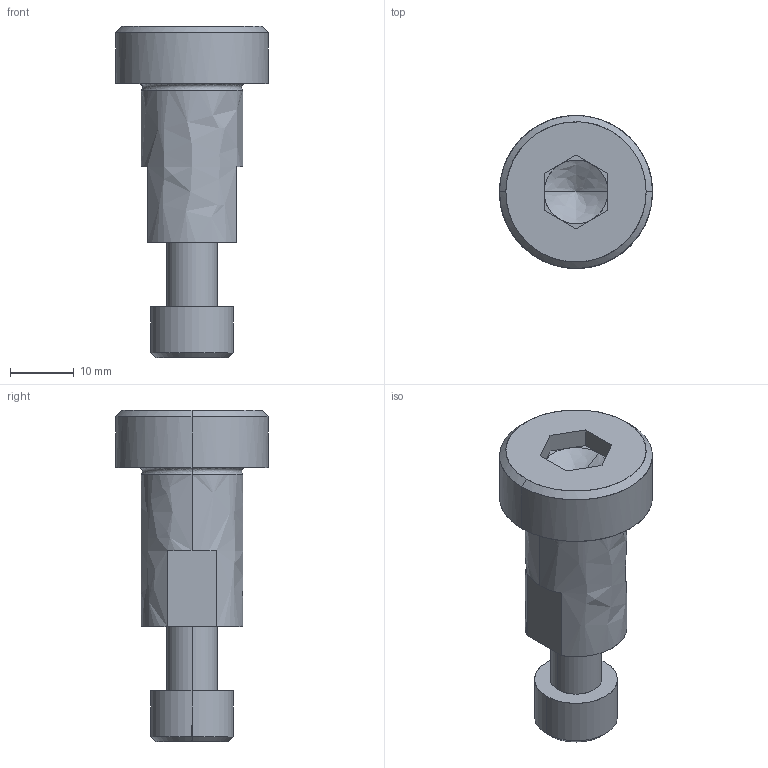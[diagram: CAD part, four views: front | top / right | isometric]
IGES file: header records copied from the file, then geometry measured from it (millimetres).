
Global section: file name: E:\UnigraphicsGraphicData\MISUMI_PRESS-PARTS\IGES\3d_sbt16-25_05063_r00.igs; native system: NX V5.0; preprocessor: UGS NX IGES V5.0; author: MISUMI; date: 20110105.162436; units: millimetre
Bounding box: 24 x 24 x 52 mm (x, y, z)
Surface area: 4852.8 mm2 (no closed solid volume)
Topology: 0 solids, 0 shells, 56 faces, 310 edges, 306 vertices
Faces by surface type: bspline 56
